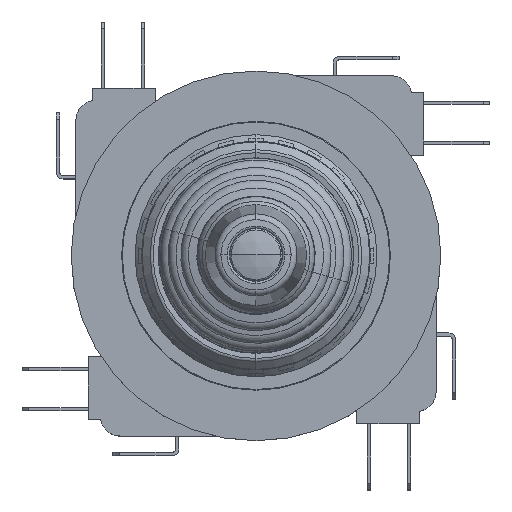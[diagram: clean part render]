
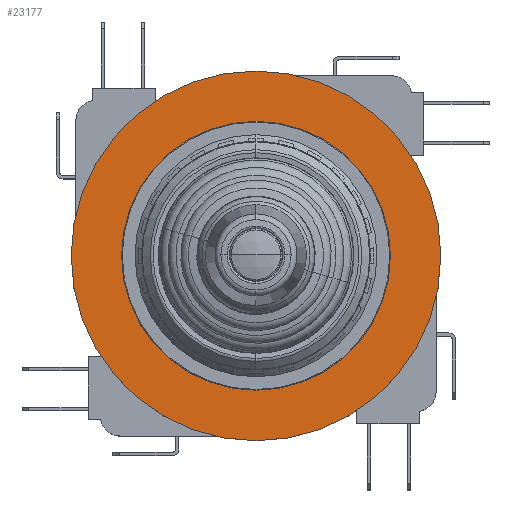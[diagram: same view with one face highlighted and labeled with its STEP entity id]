
A CAD part, top view. The second image highlights one B-rep face of the part: STEP entity #23177.
In plain terms, the highlighted planar face has unit normal (0, 0, 1).
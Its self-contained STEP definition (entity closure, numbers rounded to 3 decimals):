
#45 = DIRECTION ( 'NONE',  ( 1., 0., 0. ) ) ;
#778 = EDGE_CURVE ( 'NONE', #8035, #7661, #12670, .T. ) ;
#914 = AXIS2_PLACEMENT_3D ( 'NONE', #11328, #15449, #25500 ) ;
#948 = CARTESIAN_POINT ( 'NONE',  ( 3.5, 0., 6.73 ) ) ;
#2486 = AXIS2_PLACEMENT_3D ( 'NONE', #8134, #24638, #45 ) ;
#2645 = CIRCLE ( 'NONE', #2486, 3.5 ) ;
#2841 = EDGE_CURVE ( 'NONE', #23263, #21079, #17430, .T. ) ;
#3037 = CIRCLE ( 'NONE', #21327, 27.5 ) ;
#3375 = EDGE_LOOP ( 'NONE', ( #13160, #18425 ) ) ;
#3852 = CARTESIAN_POINT ( 'NONE',  ( 0., 0., 6.73 ) ) ;
#3942 = AXIS2_PLACEMENT_3D ( 'NONE', #3852, #10058, #7881 ) ;
#5371 = FACE_OUTER_BOUND ( 'NONE', #3375, .T. ) ;
#5675 = CARTESIAN_POINT ( 'NONE',  ( 0., 0., 6.73 ) ) ;
#6526 = ORIENTED_EDGE ( 'NONE', *, *, #24076, .F. ) ;
#7161 = AXIS2_PLACEMENT_3D ( 'NONE', #5675, #11878, #24073 ) ;
#7478 = DIRECTION ( 'NONE',  ( 1., 0., 0. ) ) ;
#7661 = VERTEX_POINT ( 'NONE', #19804 ) ;
#7881 = DIRECTION ( 'NONE',  ( 1., 0., 0. ) ) ;
#8035 = VERTEX_POINT ( 'NONE', #21373 ) ;
#8134 = CARTESIAN_POINT ( 'NONE',  ( 0., 0., 6.73 ) ) ;
#9072 = CARTESIAN_POINT ( 'NONE',  ( -3.5, 0., 6.73 ) ) ;
#10058 = DIRECTION ( 'NONE',  ( 0., 0., 1. ) ) ;
#11328 = CARTESIAN_POINT ( 'NONE',  ( 0., 0., 6.73 ) ) ;
#11533 = CARTESIAN_POINT ( 'NONE',  ( 0., 0., 6.73 ) ) ;
#11878 = DIRECTION ( 'NONE',  ( 0., 0., 1. ) ) ;
#12452 = EDGE_CURVE ( 'NONE', #7661, #8035, #3037, .T. ) ;
#12670 = CIRCLE ( 'NONE', #3942, 27.5 ) ;
#13160 = ORIENTED_EDGE ( 'NONE', *, *, #778, .T. ) ;
#15449 = DIRECTION ( 'NONE',  ( 0., 0., 1. ) ) ;
#16217 = EDGE_LOOP ( 'NONE', ( #20677, #6526 ) ) ;
#17430 = CIRCLE ( 'NONE', #7161, 3.5 ) ;
#18425 = ORIENTED_EDGE ( 'NONE', *, *, #12452, .T. ) ;
#19804 = CARTESIAN_POINT ( 'NONE',  ( 27.5, 0., 6.73 ) ) ;
#20677 = ORIENTED_EDGE ( 'NONE', *, *, #2841, .F. ) ;
#21079 = VERTEX_POINT ( 'NONE', #948 ) ;
#21327 = AXIS2_PLACEMENT_3D ( 'NONE', #11533, #25889, #7478 ) ;
#21373 = CARTESIAN_POINT ( 'NONE',  ( -27.5, 0., 6.73 ) ) ;
#23177 = ADVANCED_FACE ( 'NONE', ( #5371, #26579 ), #25584, .T. ) ;
#23263 = VERTEX_POINT ( 'NONE', #9072 ) ;
#24073 = DIRECTION ( 'NONE',  ( 1., 0., 0. ) ) ;
#24076 = EDGE_CURVE ( 'NONE', #21079, #23263, #2645, .T. ) ;
#24638 = DIRECTION ( 'NONE',  ( 0., 0., 1. ) ) ;
#25500 = DIRECTION ( 'NONE',  ( 1., 0., 0. ) ) ;
#25584 = PLANE ( 'NONE',  #914 ) ;
#25889 = DIRECTION ( 'NONE',  ( 0., 0., 1. ) ) ;
#26579 = FACE_BOUND ( 'NONE', #16217, .T. ) ;
